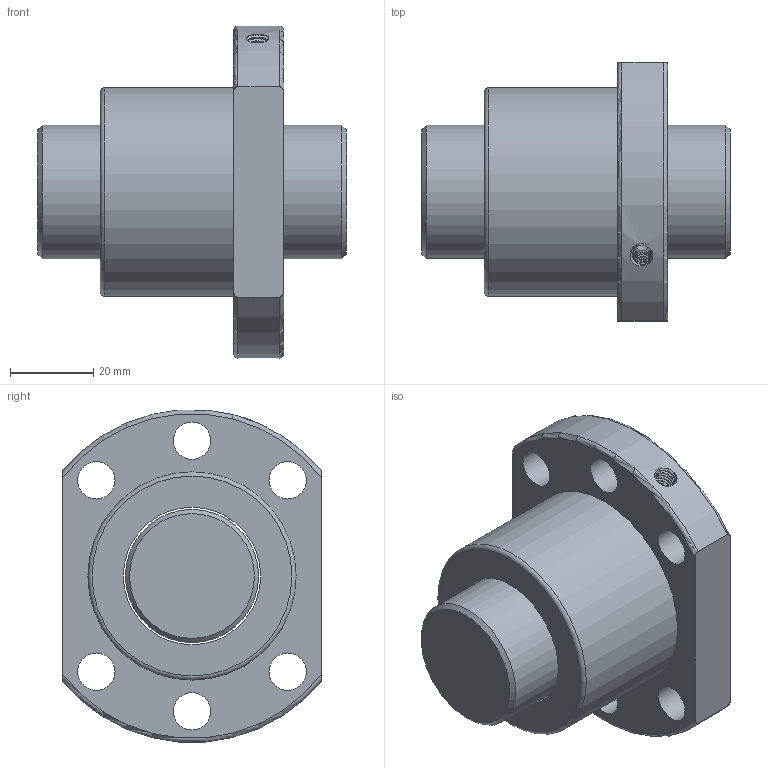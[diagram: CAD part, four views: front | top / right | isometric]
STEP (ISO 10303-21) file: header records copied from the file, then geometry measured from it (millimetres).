
FILE_DESCRIPTION(/* description */ ('Unknown','CAx-IF Rec.Pracs.---Representation and Presentation of Product Manufacturing Information (PMI)---4.0---2014-10-13','CAx-IF Rec.Pracs.---3D Tessellated Geometry---0.4---2014-09-14','2;1'),/* implementation_level */ '2;1');
FILE_NAME(/* name */ 'SFU03204',/* time_stamp */ '2020-12-07T16:48:10+08:00',/* author */ ('Unknown'),/* organization */ ('Unknown'),/* preprocessor_version */ 'ST-DEVELOPER v16.7',/* originating_system */ 'Solid Edge',/* authorisation */ 'Unknown');
FILE_SCHEMA (('AP242_MANAGED_MODEL_BASED_3D_ENGINEERING_MIM_LF { 1 0 10303 442 1 1 4 }'));
Length unit declared in the file: millimetre
Products named in the file (1): SFU03204
Bounding box: 74 x 62 x 79.74 mm (x, y, z)
Volume: 132418.8 mm3; surface area: 30001.4 mm2
Topology: 2 solids, 2 shells, 31 faces, 73 edges, 48 vertices
Faces by surface type: cylinder 14, plane 8, torus 5, cone 2, bspline 2
Full cylindrical faces by diameter (mm): 4 x1, 9 x6, 32 x1, 33 x1, 50 x1
Entity records: 3265 total; most frequent: CARTESIAN_POINT 2515, DIRECTION 138, ORIENTED_EDGE 118, AXIS2_PLACEMENT_3D 66, EDGE_LOOP 62, FACE_BOUND 62, EDGE_CURVE 59, VERTEX_POINT 47
